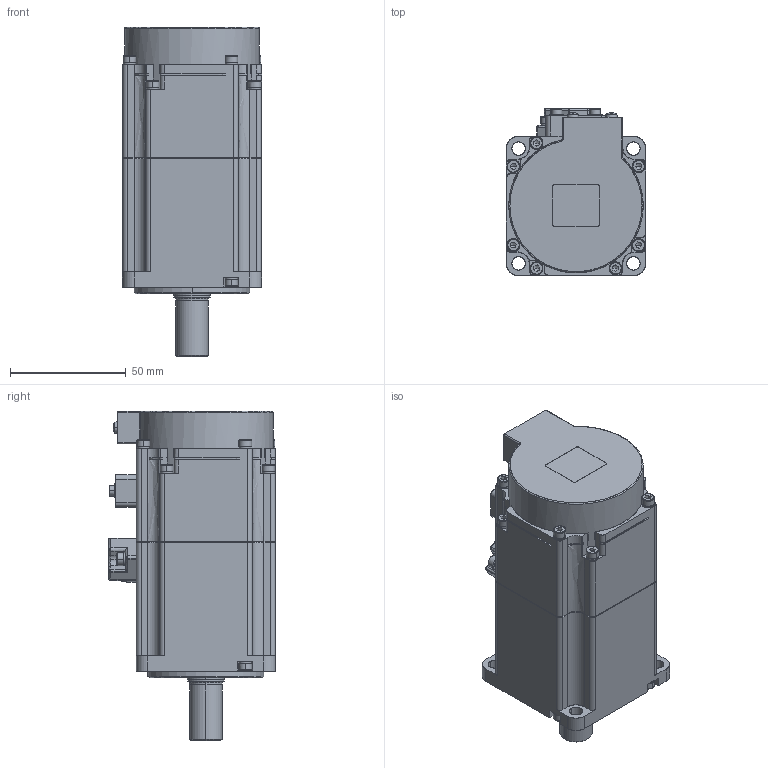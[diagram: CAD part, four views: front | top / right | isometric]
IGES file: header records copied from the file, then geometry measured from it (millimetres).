
Start section: SolidWorks IGES file using analytic representation for surfaces
Global section: file name: C:\景翔\圖面\20200518_SMESMP  馬達尺寸錯誤修正\(NEW)自行修改\3D-IGS\SME-H020B.IGS; native system: SolidWorks 2016; preprocessor: SolidWorks 2016; author: 13521; date: 200518.162652; units: millimetre
Bounding box: 60 x 72 x 142 mm (x, y, z)
Surface area: 72105.2 mm2 (no closed solid volume)
Topology: 0 solids, 0 shells, 1147 faces, 16083 edges, 15984 vertices
Faces by surface type: revolution 605, bspline 542
